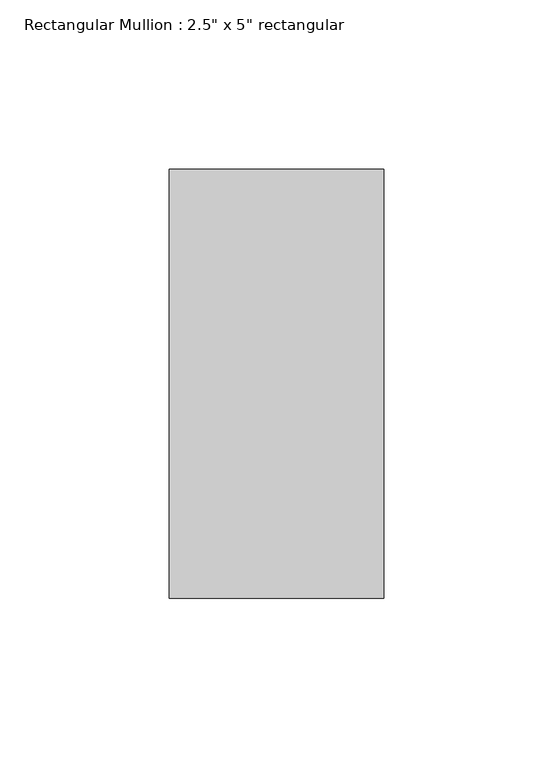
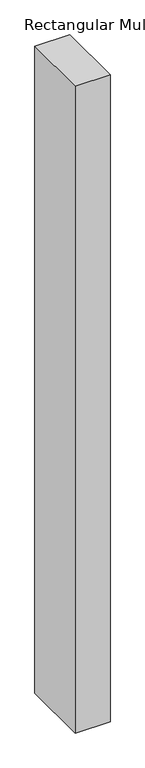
"""IFC4 building model written with IfcOpenShell, lengths in millimetres: member geometry."""

from ifc_helpers import new_model, si_unit, frame, origin, place, context, project, spatial, polyline, outline, extrude, source, transform, mapped, element, save


def member_c46932f7(model_context):
    return source(origin(), model_context, "Body", "SweptSolid", [
        extrude(outline(polyline([(31.75, 63.5), (31.75, -63.5), (-31.75, -63.5), (-31.75, 63.5), (31.75, 63.5)])), frame((0.0, 0.0, -1245.39375), z_axis=(0.0, 0.0, 1.0), x_axis=(1.0, 0.0, 0.0)), (0.0, 0.0, 1.0), 1245.39375),
    ])


if __name__ == "__main__":
    model = new_model("IFC4")
    model_context = context("Model", 3, world=origin())
    ifc_project = project(units=[si_unit("LENGTHUNIT", "METRE", prefix="MILLI")], contexts=[model_context])
    site = spatial("IfcSite", under=ifc_project)
    building = spatial("IfcBuilding", under=site)
    placement = place(None, origin())
    member_shape = member_c46932f7(model_context)
    element("IfcMember", 1, ObjectType="Rectangular Mullion : 2.5\" x 5\" rectangular", at=placement, inside=building, context=model_context, shape_type="MappedRepresentation", body=[
        mapped(member_shape, transform((0.0, 0.0, 0.0), x_axis=(1.0, 0.0, 0.0), y_axis=(0.0, 1.0, 0.0), z_axis=(0.0, 0.0, 1.0))),
    ])
    save(model, "model.ifc")
